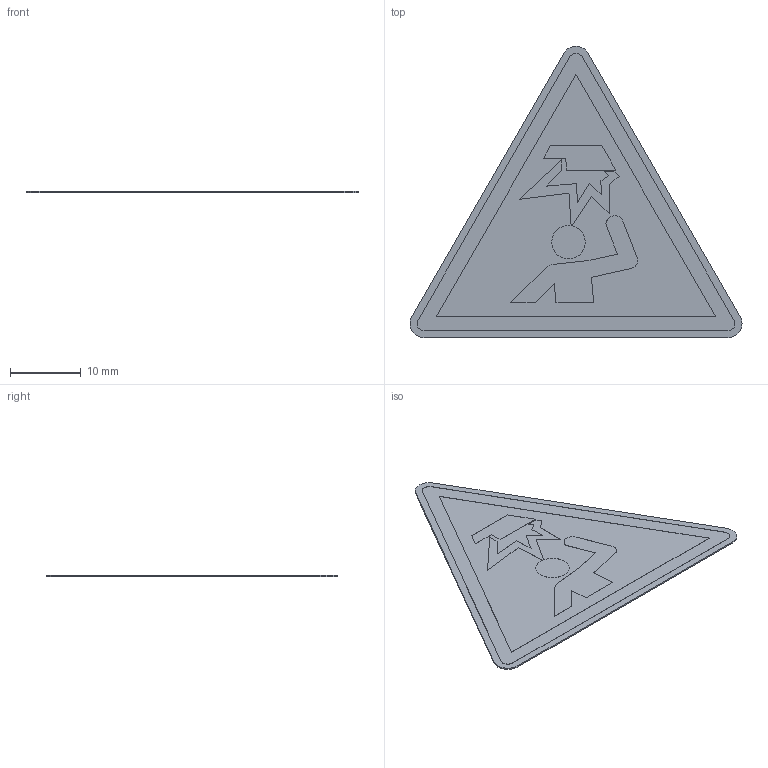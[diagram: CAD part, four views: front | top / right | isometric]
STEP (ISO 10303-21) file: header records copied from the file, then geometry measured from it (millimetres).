
FILE_DESCRIPTION (( 'STEP AP214' ), '1' );
FILE_NAME ('W020_Warnung vor Hindernissen im Kopfbereich.STEP', '2022-02-22T08:18:48', ( '' ), ( '' ), 'SwSTEP 2.0', 'SolidWorks 2021', '' );
FILE_SCHEMA (( 'AUTOMOTIVE_DESIGN' ));
Length unit declared in the file: millimetre
Products named in the file (1): W020_Warnung vor Hindernissen im Kopfbereich
Bounding box: 47.07 x 41.3 x 0.22 mm (x, y, z)
Volume: 221.5 mm3; surface area: 2183.6 mm2
Topology: 1 solids, 1 shells, 68 faces, 183 edges, 122 vertices
Faces by surface type: plane 52, cylinder 16
Entity records: 2791 total; most frequent: CARTESIAN_POINT 374, ORIENTED_EDGE 366, DIRECTION 353, EDGE_CURVE 183, VECTOR 151, LINE 151, VERTEX_POINT 122, AXIS2_PLACEMENT_3D 101
